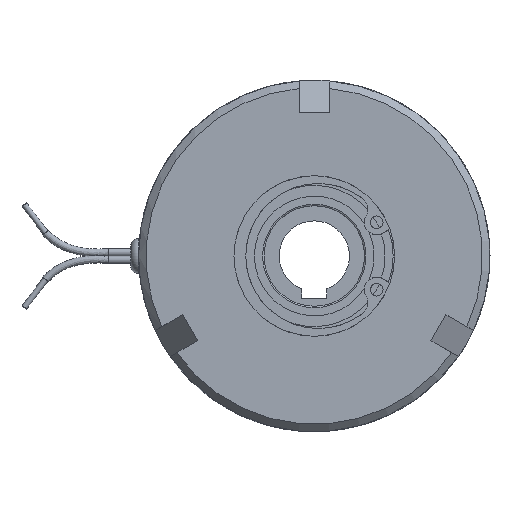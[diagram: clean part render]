
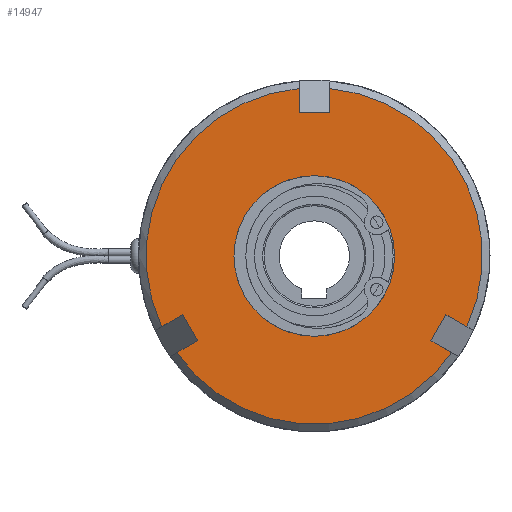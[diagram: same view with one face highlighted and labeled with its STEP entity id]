
A CAD part, left-side view. The second image highlights one B-rep face of the part: STEP entity #14947.
In plain terms, the highlighted planar face has unit normal (-1, 0, 0).
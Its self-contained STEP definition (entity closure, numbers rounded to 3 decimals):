
#298=FACE_BOUND('',#1883,.T.);
#494=PLANE('',#16654);
#1032=FACE_OUTER_BOUND('',#1882,.T.);
#1882=EDGE_LOOP('',(#11816,#11817,#11818,#11819,#11820,#11821,#11822,#11823,
#11824,#11825,#11826,#11827));
#1883=EDGE_LOOP('',(#11828));
#2508=LINE('',#26069,#3260);
#2510=LINE('',#26078,#3262);
#2512=LINE('',#26086,#3264);
#2515=LINE('',#26094,#3267);
#2517=LINE('',#26103,#3269);
#2519=LINE('',#26111,#3271);
#2523=LINE('',#26140,#3275);
#2525=LINE('',#26144,#3277);
#2526=LINE('',#26146,#3278);
#3260=VECTOR('',#19940,4.815);
#3262=VECTOR('',#19946,6.);
#3264=VECTOR('',#19950,4.815);
#3267=VECTOR('',#19955,4.815);
#3269=VECTOR('',#19961,6.);
#3271=VECTOR('',#19965,4.815);
#3275=VECTOR('',#19991,4.815);
#3277=VECTOR('',#19995,6.);
#3278=VECTOR('',#19998,4.815);
#4428=CIRCLE('',#16347,33.5);
#4429=CIRCLE('',#16349,33.5);
#4607=CIRCLE('',#16653,16.);
#4608=CIRCLE('',#16655,33.5);
#5841=VERTEX_POINT('',#26066);
#5842=VERTEX_POINT('',#26068);
#5844=VERTEX_POINT('',#26076);
#5846=VERTEX_POINT('',#26082);
#5849=VERTEX_POINT('',#26091);
#5850=VERTEX_POINT('',#26093);
#5852=VERTEX_POINT('',#26101);
#5854=VERTEX_POINT('',#26107);
#5860=VERTEX_POINT('',#26126);
#5861=VERTEX_POINT('',#26132);
#5862=VERTEX_POINT('',#26138);
#5863=VERTEX_POINT('',#26142);
#6030=VERTEX_POINT('',#26743);
#7688=EDGE_CURVE('',#5842,#5841,#2508,.T.);
#7692=EDGE_CURVE('',#5841,#5844,#2510,.T.);
#7695=EDGE_CURVE('',#5844,#5846,#2512,.T.);
#7698=EDGE_CURVE('',#5850,#5849,#2515,.T.);
#7702=EDGE_CURVE('',#5849,#5852,#2517,.T.);
#7705=EDGE_CURVE('',#5852,#5854,#2519,.T.);
#7713=EDGE_CURVE('',#5842,#5860,#4428,.T.);
#7716=EDGE_CURVE('',#5861,#5854,#4429,.T.);
#7718=EDGE_CURVE('',#5861,#5862,#2523,.T.);
#7720=EDGE_CURVE('',#5862,#5863,#2525,.T.);
#7721=EDGE_CURVE('',#5863,#5860,#2526,.T.);
#8029=EDGE_CURVE('',#6030,#6030,#4607,.T.);
#8030=EDGE_CURVE('',#5850,#5846,#4608,.T.);
#11816=ORIENTED_EDGE('',*,*,#7695,.T.);
#11817=ORIENTED_EDGE('',*,*,#8030,.F.);
#11818=ORIENTED_EDGE('',*,*,#7698,.T.);
#11819=ORIENTED_EDGE('',*,*,#7702,.T.);
#11820=ORIENTED_EDGE('',*,*,#7705,.T.);
#11821=ORIENTED_EDGE('',*,*,#7716,.F.);
#11822=ORIENTED_EDGE('',*,*,#7718,.T.);
#11823=ORIENTED_EDGE('',*,*,#7720,.T.);
#11824=ORIENTED_EDGE('',*,*,#7721,.T.);
#11825=ORIENTED_EDGE('',*,*,#7713,.F.);
#11826=ORIENTED_EDGE('',*,*,#7688,.T.);
#11827=ORIENTED_EDGE('',*,*,#7692,.T.);
#11828=ORIENTED_EDGE('',*,*,#8029,.T.);
#14947=ADVANCED_FACE('',(#1032,#298),#494,.T.);
#16347=AXIS2_PLACEMENT_3D('',#26127,#19982,#19983);
#16349=AXIS2_PLACEMENT_3D('',#26136,#19986,#19987);
#16653=AXIS2_PLACEMENT_3D('',#26744,#20729,#20730);
#16654=AXIS2_PLACEMENT_3D('',#26745,#20731,#20732);
#16655=AXIS2_PLACEMENT_3D('',#26746,#20733,#20734);
#19940=DIRECTION('',(0.,-0.866,0.5));
#19946=DIRECTION('',(0.,-0.5,-0.866));
#19950=DIRECTION('',(0.,0.866,-0.5));
#19955=DIRECTION('',(0.,0.866,0.5));
#19961=DIRECTION('',(0.,-0.5,0.866));
#19965=DIRECTION('',(0.,-0.866,-0.5));
#19982=DIRECTION('center_axis',(1.,0.,0.));
#19983=DIRECTION('ref_axis',(0.,0.,-1.));
#19986=DIRECTION('center_axis',(1.,0.,0.));
#19987=DIRECTION('ref_axis',(0.,0.,-1.));
#19991=DIRECTION('',(0.,0.,-1.));
#19995=DIRECTION('',(0.,1.,0.));
#19998=DIRECTION('',(0.,0.,1.));
#20729=DIRECTION('center_axis',(1.,0.,0.));
#20730=DIRECTION('ref_axis',(0.,0.,-1.));
#20731=DIRECTION('center_axis',(-1.,0.,0.));
#20732=DIRECTION('ref_axis',(0.,0.,1.));
#20733=DIRECTION('center_axis',(1.,0.,0.));
#20734=DIRECTION('ref_axis',(0.,0.,-1.));
#26066=CARTESIAN_POINT('',(-16.75,26.225,-11.677));
#26068=CARTESIAN_POINT('',(-16.75,30.395,-14.085));
#26069=CARTESIAN_POINT('',(-16.75,29.203,-13.396));
#26076=CARTESIAN_POINT('',(-16.75,23.225,-16.873));
#26078=CARTESIAN_POINT('',(-16.75,28.913,-7.022));
#26082=CARTESIAN_POINT('',(-16.75,27.395,-19.281));
#26086=CARTESIAN_POINT('',(-16.75,26.203,-18.592));
#26091=CARTESIAN_POINT('',(-16.75,-23.225,-16.873));
#26093=CARTESIAN_POINT('',(-16.75,-27.395,-19.281));
#26094=CARTESIAN_POINT('',(-16.75,-1.078,-4.086));
#26101=CARTESIAN_POINT('',(-16.75,-26.225,-11.677));
#26103=CARTESIAN_POINT('',(-16.75,-20.538,-21.528));
#26107=CARTESIAN_POINT('',(-16.75,-30.395,-14.085));
#26111=CARTESIAN_POINT('',(-16.75,-4.078,1.11));
#26126=CARTESIAN_POINT('',(-16.75,3.,33.365));
#26127=CARTESIAN_POINT('Origin',(-16.75,0.,0.));
#26132=CARTESIAN_POINT('',(-16.75,-3.,33.365));
#26136=CARTESIAN_POINT('Origin',(-16.75,0.,0.));
#26138=CARTESIAN_POINT('',(-16.75,-3.,28.55));
#26140=CARTESIAN_POINT('',(-16.75,-3.,17.482));
#26142=CARTESIAN_POINT('',(-16.75,3.,28.55));
#26144=CARTESIAN_POINT('',(-16.75,16.75,28.55));
#26146=CARTESIAN_POINT('',(-16.75,3.,17.482));
#26743=CARTESIAN_POINT('',(-16.75,16.,0.));
#26744=CARTESIAN_POINT('Origin',(-16.75,0.,0.));
#26745=CARTESIAN_POINT('Origin',(-16.75,33.5,0.));
#26746=CARTESIAN_POINT('Origin',(-16.75,0.,0.));
